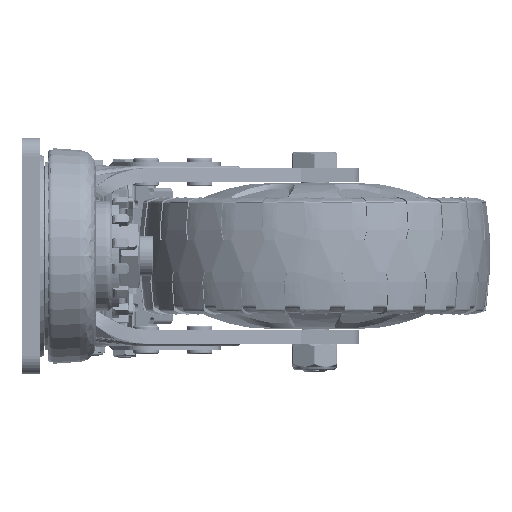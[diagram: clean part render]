
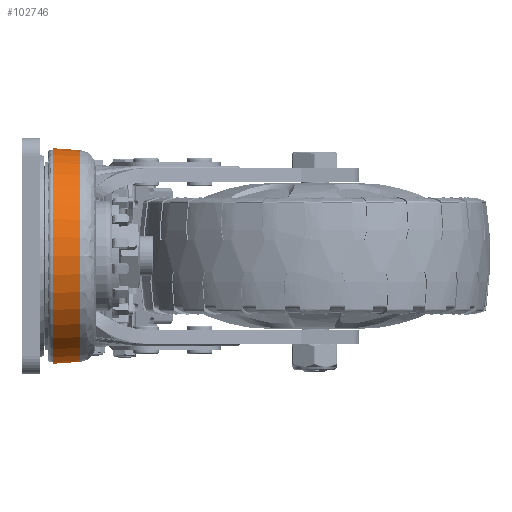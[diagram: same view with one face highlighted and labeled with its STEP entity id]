
A CAD part, left-side view. The second image highlights one B-rep face of the part: STEP entity #102746.
In plain terms, the highlighted conical face has half-angle 3.9 degrees and reference radius 45.194 mm.
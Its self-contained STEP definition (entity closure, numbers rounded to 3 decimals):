
#5023 = ORIENTED_EDGE ( 'NONE', *, *, #6694, .T. ) ;
#5666 = ORIENTED_EDGE ( 'NONE', *, *, #286345, .F. ) ;
#6694 = EDGE_CURVE ( 'NONE', #27402, #256286, #123120, .T. ) ;
#9903 = CARTESIAN_POINT ( 'NONE',  ( 0., 18.339, 0. ) ) ;
#11391 = DIRECTION ( 'NONE',  ( 0., 1., 0. ) ) ;
#12086 = VERTEX_POINT ( 'NONE', #271163 ) ;
#14448 = VECTOR ( 'NONE', #64925, 1000. ) ;
#17664 = AXIS2_PLACEMENT_3D ( 'NONE', #9903, #11391, #241525 ) ;
#20554 = EDGE_CURVE ( 'NONE', #27402, #12086, #66439, .T. ) ;
#27402 = VERTEX_POINT ( 'NONE', #229895 ) ;
#28781 = FACE_OUTER_BOUND ( 'NONE', #282219, .T. ) ;
#50809 = CARTESIAN_POINT ( 'NONE',  ( 0., 6.524, 0. ) ) ;
#62128 = VERTEX_POINT ( 'NONE', #180758 ) ;
#64925 = DIRECTION ( 'NONE',  ( 0., 0.998, -0.068 ) ) ;
#66439 = LINE ( 'NONE', #90862, #14448 ) ;
#88157 = DIRECTION ( 'NONE',  ( 0., 0.998, 0.068 ) ) ;
#90862 = CARTESIAN_POINT ( 'NONE',  ( 0., 6.524, -45.195 ) ) ;
#102746 = ADVANCED_FACE ( 'NONE', ( #28781 ), #200616, .T. ) ;
#114051 = LINE ( 'NONE', #203969, #133089 ) ;
#115615 = ORIENTED_EDGE ( 'NONE', *, *, #176443, .T. ) ;
#123120 = CIRCLE ( 'NONE', #244652, 45.195 ) ;
#123987 = DIRECTION ( 'NONE',  ( 0., 1., 0. ) ) ;
#133089 = VECTOR ( 'NONE', #88157, 1000. ) ;
#165503 = DIRECTION ( 'NONE',  ( 0., 1., 0. ) ) ;
#167034 = CARTESIAN_POINT ( 'NONE',  ( 0., 6.524, 0. ) ) ;
#168515 = CARTESIAN_POINT ( 'NONE',  ( 0., 6.524, 45.195 ) ) ;
#169733 = DIRECTION ( 'NONE',  ( 1., 0., 0. ) ) ;
#171559 = AXIS2_PLACEMENT_3D ( 'NONE', #286250, #194825, #287738 ) ;
#176443 = EDGE_CURVE ( 'NONE', #256286, #268322, #242669, .T. ) ;
#180758 = CARTESIAN_POINT ( 'NONE',  ( 0., 18.339, 46. ) ) ;
#194825 = DIRECTION ( 'NONE',  ( 0., 1., 0. ) ) ;
#200616 = CONICAL_SURFACE ( 'NONE', #171559, 45.195, 0.068 ) ;
#203969 = CARTESIAN_POINT ( 'NONE',  ( 0., 6.524, 45.195 ) ) ;
#221799 = EDGE_CURVE ( 'NONE', #268322, #62128, #114051, .T. ) ;
#227162 = ORIENTED_EDGE ( 'NONE', *, *, #221799, .T. ) ;
#229895 = CARTESIAN_POINT ( 'NONE',  ( 0., 6.524, -45.195 ) ) ;
#232516 = DIRECTION ( 'NONE',  ( 1., 0., 0. ) ) ;
#241525 = DIRECTION ( 'NONE',  ( 1., 0., 0. ) ) ;
#242669 = CIRCLE ( 'NONE', #281533, 45.195 ) ;
#243318 = ORIENTED_EDGE ( 'NONE', *, *, #20554, .F. ) ;
#244652 = AXIS2_PLACEMENT_3D ( 'NONE', #167034, #165503, #232516 ) ;
#256286 = VERTEX_POINT ( 'NONE', #291045 ) ;
#260774 = CIRCLE ( 'NONE', #17664, 46. ) ;
#268322 = VERTEX_POINT ( 'NONE', #168515 ) ;
#271163 = CARTESIAN_POINT ( 'NONE',  ( 0., 18.339, -46. ) ) ;
#281533 = AXIS2_PLACEMENT_3D ( 'NONE', #50809, #123987, #169733 ) ;
#282219 = EDGE_LOOP ( 'NONE', ( #243318, #5023, #115615, #227162, #5666 ) ) ;
#286250 = CARTESIAN_POINT ( 'NONE',  ( 0., 6.524, 0. ) ) ;
#286345 = EDGE_CURVE ( 'NONE', #12086, #62128, #260774, .T. ) ;
#287738 = DIRECTION ( 'NONE',  ( 0., 0., 1. ) ) ;
#291045 = CARTESIAN_POINT ( 'NONE',  ( -45.195, 6.524, 0. ) ) ;
